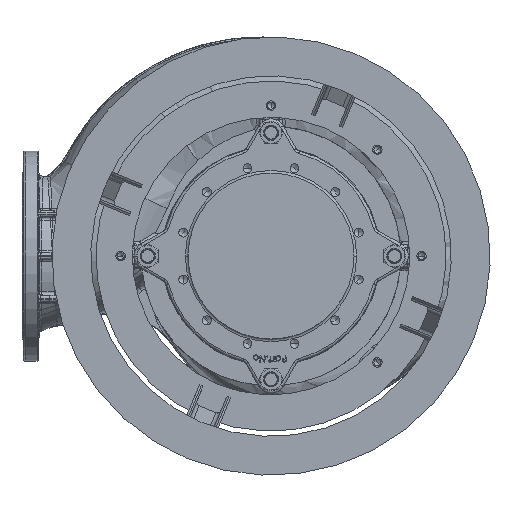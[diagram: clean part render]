
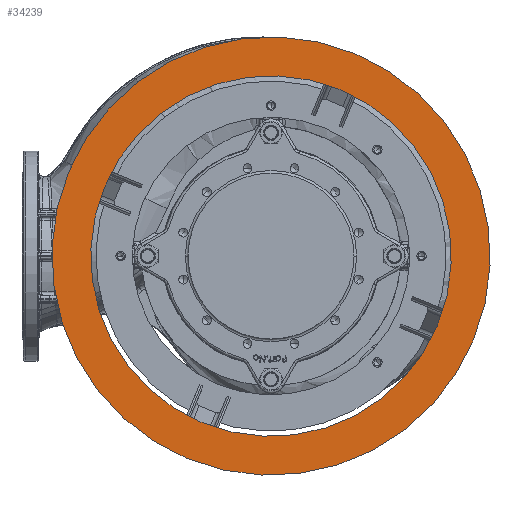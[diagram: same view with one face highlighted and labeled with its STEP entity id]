
A CAD part, front view. The second image highlights one B-rep face of the part: STEP entity #34239.
In plain terms, the highlighted planar face has unit normal (0, -1, 0).
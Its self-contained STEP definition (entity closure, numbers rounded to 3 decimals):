
#1267 = DIRECTION ( 'NONE',  ( 0., -1., 0. ) ) ;
#4800 = DIRECTION ( 'NONE',  ( 0.383, 0., 0.924 ) ) ;
#26464 = CIRCLE ( 'NONE', #99584, 422.5 ) ;
#28208 = EDGE_CURVE ( 'NONE', #57834, #79941, #26464, .T. ) ;
#30966 = FACE_OUTER_BOUND ( 'NONE', #35042, .T. ) ;
#31711 = CARTESIAN_POINT ( 'NONE',  ( 0., -839.5, 0. ) ) ;
#34239 = ADVANCED_FACE ( 'NONE', ( #30966, #139045 ), #102729, .T. ) ;
#35042 = EDGE_LOOP ( 'NONE', ( #74538, #169633 ) ) ;
#36343 = CARTESIAN_POINT ( 'NONE',  ( -161.684, -839.5, -390.339 ) ) ;
#41081 = EDGE_CURVE ( 'NONE', #79941, #57834, #129289, .T. ) ;
#45879 = DIRECTION ( 'NONE',  ( 0.383, 0., 0.924 ) ) ;
#56765 = AXIS2_PLACEMENT_3D ( 'NONE', #65988, #164630, #80141 ) ;
#57284 = ORIENTED_EDGE ( 'NONE', *, *, #170704, .F. ) ;
#57834 = VERTEX_POINT ( 'NONE', #58266 ) ;
#58266 = CARTESIAN_POINT ( 'NONE',  ( 161.684, -839.5, 390.339 ) ) ;
#65988 = CARTESIAN_POINT ( 'NONE',  ( 0., -839.5, 0. ) ) ;
#67146 = CARTESIAN_POINT ( 'NONE',  ( 0., -839.5, 0. ) ) ;
#74538 = ORIENTED_EDGE ( 'NONE', *, *, #28208, .T. ) ;
#77548 = CARTESIAN_POINT ( 'NONE',  ( 132.982, -839.5, 321.048 ) ) ;
#79941 = VERTEX_POINT ( 'NONE', #36343 ) ;
#80141 = DIRECTION ( 'NONE',  ( 0.383, 0., 0.924 ) ) ;
#81315 = DIRECTION ( 'NONE',  ( 0.383, 0., 0.924 ) ) ;
#85651 = CARTESIAN_POINT ( 'NONE',  ( 0., -839.5, 0. ) ) ;
#89149 = DIRECTION ( 'NONE',  ( 0., -1., 0. ) ) ;
#97740 = CARTESIAN_POINT ( 'NONE',  ( -132.982, -839.5, -321.048 ) ) ;
#99584 = AXIS2_PLACEMENT_3D ( 'NONE', #67146, #165809, #81315 ) ;
#99812 = DIRECTION ( 'NONE',  ( 0.383, 0., 0.924 ) ) ;
#102729 = PLANE ( 'NONE',  #145421 ) ;
#103589 = AXIS2_PLACEMENT_3D ( 'NONE', #85651, #1267, #99812 ) ;
#124508 = EDGE_LOOP ( 'NONE', ( #57284, #151620 ) ) ;
#124958 = CIRCLE ( 'NONE', #174994, 347.5 ) ;
#128525 = VERTEX_POINT ( 'NONE', #77548 ) ;
#129289 = CIRCLE ( 'NONE', #103589, 422.5 ) ;
#130295 = DIRECTION ( 'NONE',  ( 0., -1., 0. ) ) ;
#134629 = CIRCLE ( 'NONE', #56765, 347.5 ) ;
#139045 = FACE_BOUND ( 'NONE', #124508, .T. ) ;
#145421 = AXIS2_PLACEMENT_3D ( 'NONE', #173607, #89149, #4800 ) ;
#147218 = VERTEX_POINT ( 'NONE', #97740 ) ;
#148817 = EDGE_CURVE ( 'NONE', #147218, #128525, #124958, .T. ) ;
#151620 = ORIENTED_EDGE ( 'NONE', *, *, #148817, .F. ) ;
#164630 = DIRECTION ( 'NONE',  ( 0., -1., 0. ) ) ;
#165809 = DIRECTION ( 'NONE',  ( 0., -1., 0. ) ) ;
#169633 = ORIENTED_EDGE ( 'NONE', *, *, #41081, .T. ) ;
#170704 = EDGE_CURVE ( 'NONE', #128525, #147218, #134629, .T. ) ;
#173607 = CARTESIAN_POINT ( 'NONE',  ( 161.684, -839.5, 390.339 ) ) ;
#174994 = AXIS2_PLACEMENT_3D ( 'NONE', #31711, #130295, #45879 ) ;
